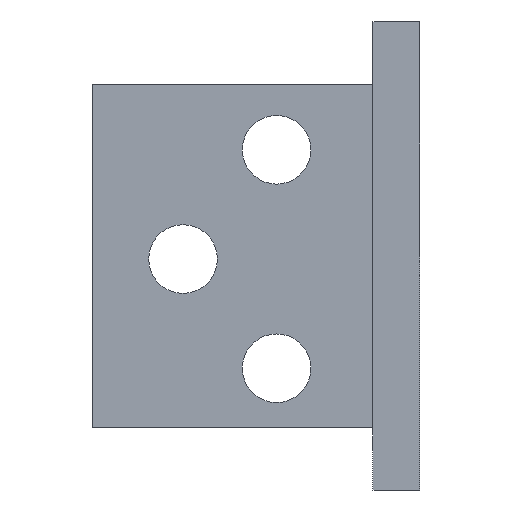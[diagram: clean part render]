
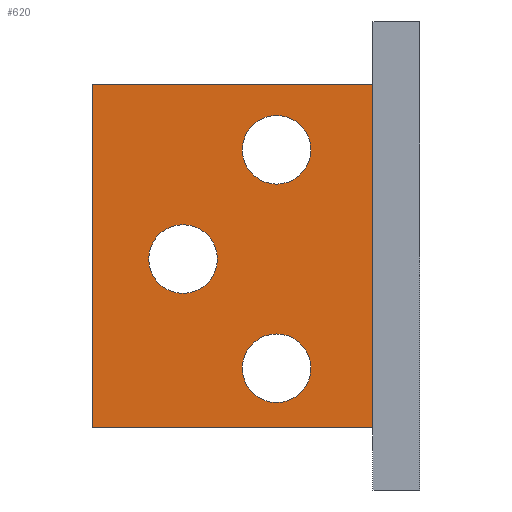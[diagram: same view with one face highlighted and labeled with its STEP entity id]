
A CAD part, front view. The second image highlights one B-rep face of the part: STEP entity #620.
In plain terms, the highlighted planar face has unit normal (0, -1, 0).
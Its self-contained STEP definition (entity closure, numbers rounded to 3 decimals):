
#29=FACE_BOUND('',#128,.T.);
#30=FACE_BOUND('',#129,.T.);
#31=FACE_BOUND('',#130,.T.);
#57=PLANE('',#686);
#82=FACE_OUTER_BOUND('',#127,.T.);
#127=EDGE_LOOP('',(#520,#521,#522,#523));
#128=EDGE_LOOP('',(#524));
#129=EDGE_LOOP('',(#525));
#130=EDGE_LOOP('',(#526));
#171=LINE('',#951,#222);
#189=LINE('',#990,#240);
#195=LINE('',#997,#246);
#199=LINE('',#1011,#250);
#222=VECTOR('',#781,10.);
#240=VECTOR('',#807,10.);
#246=VECTOR('',#815,10.);
#250=VECTOR('',#833,10.);
#280=CIRCLE('',#687,1.1);
#281=CIRCLE('',#688,1.1);
#282=CIRCLE('',#689,1.1);
#312=VERTEX_POINT('',#948);
#313=VERTEX_POINT('',#950);
#327=VERTEX_POINT('',#983);
#330=VERTEX_POINT('',#988);
#334=VERTEX_POINT('',#1012);
#335=VERTEX_POINT('',#1014);
#336=VERTEX_POINT('',#1016);
#375=EDGE_CURVE('',#313,#312,#171,.T.);
#393=EDGE_CURVE('',#330,#327,#189,.T.);
#399=EDGE_CURVE('',#312,#327,#195,.T.);
#406=EDGE_CURVE('',#330,#313,#199,.T.);
#407=EDGE_CURVE('',#334,#334,#280,.T.);
#408=EDGE_CURVE('',#335,#335,#281,.T.);
#409=EDGE_CURVE('',#336,#336,#282,.T.);
#520=ORIENTED_EDGE('',*,*,#393,.F.);
#521=ORIENTED_EDGE('',*,*,#406,.T.);
#522=ORIENTED_EDGE('',*,*,#375,.T.);
#523=ORIENTED_EDGE('',*,*,#399,.T.);
#524=ORIENTED_EDGE('',*,*,#407,.T.);
#525=ORIENTED_EDGE('',*,*,#408,.T.);
#526=ORIENTED_EDGE('',*,*,#409,.T.);
#620=ADVANCED_FACE('',(#82,#29,#30,#31),#57,.T.);
#686=AXIS2_PLACEMENT_3D('',#1010,#831,#832);
#687=AXIS2_PLACEMENT_3D('',#1013,#834,#835);
#688=AXIS2_PLACEMENT_3D('',#1015,#836,#837);
#689=AXIS2_PLACEMENT_3D('',#1017,#838,#839);
#781=DIRECTION('',(1.,0.,0.));
#807=DIRECTION('',(1.,0.,0.));
#815=DIRECTION('',(0.,0.,1.));
#831=DIRECTION('center_axis',(0.,-1.,0.));
#832=DIRECTION('ref_axis',(0.,0.,-1.));
#833=DIRECTION('',(0.,0.,-1.));
#834=DIRECTION('center_axis',(0.,1.,0.));
#835=DIRECTION('ref_axis',(1.,0.,0.));
#836=DIRECTION('center_axis',(0.,1.,0.));
#837=DIRECTION('ref_axis',(1.,0.,0.));
#838=DIRECTION('center_axis',(0.,1.,0.));
#839=DIRECTION('ref_axis',(1.,0.,0.));
#948=CARTESIAN_POINT('',(54.089,-17.4,31.097));
#950=CARTESIAN_POINT('',(45.089,-17.4,31.097));
#951=CARTESIAN_POINT('',(45.089,-17.4,31.097));
#983=CARTESIAN_POINT('',(54.089,-17.4,42.097));
#988=CARTESIAN_POINT('',(45.089,-17.4,42.097));
#990=CARTESIAN_POINT('',(53.589,-17.4,42.097));
#997=CARTESIAN_POINT('',(54.089,-17.4,39.347));
#1010=CARTESIAN_POINT('Origin',(45.089,-17.4,42.097));
#1011=CARTESIAN_POINT('',(45.089,-17.4,42.097));
#1012=CARTESIAN_POINT('',(49.9,-17.4,40.));
#1013=CARTESIAN_POINT('Origin',(51.,-17.4,40.));
#1014=CARTESIAN_POINT('',(46.9,-17.4,36.5));
#1015=CARTESIAN_POINT('Origin',(48.,-17.4,36.5));
#1016=CARTESIAN_POINT('',(49.9,-17.4,33.));
#1017=CARTESIAN_POINT('Origin',(51.,-17.4,33.));
